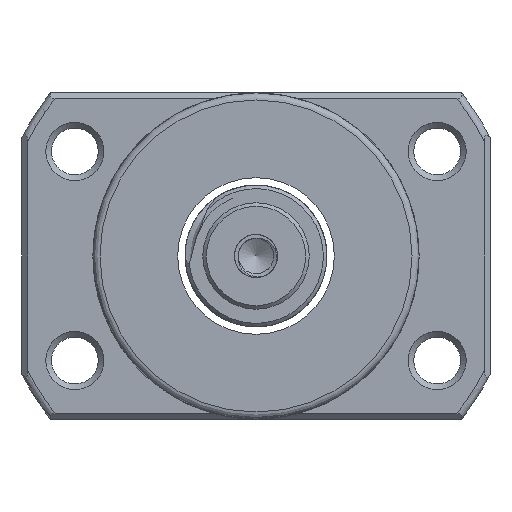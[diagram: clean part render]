
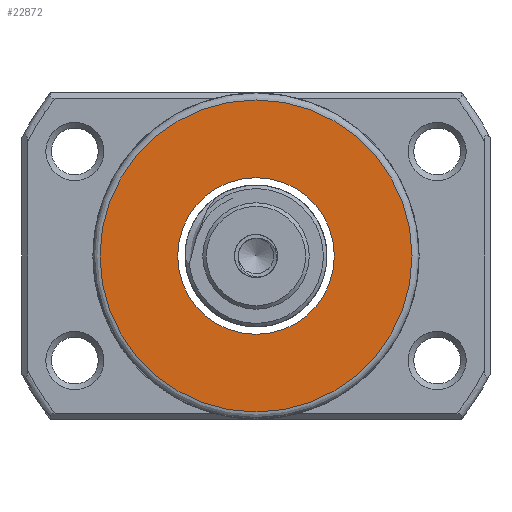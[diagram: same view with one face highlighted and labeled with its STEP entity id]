
A CAD part, left-side view. The second image highlights one B-rep face of the part: STEP entity #22872.
In plain terms, the highlighted planar face has unit normal (-1, 0, 0).
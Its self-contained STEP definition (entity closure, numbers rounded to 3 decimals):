
#1487 = CARTESIAN_POINT ( 'NONE',  ( -53.324, 0., 11.05 ) ) ;
#2553 = AXIS2_PLACEMENT_3D ( 'NONE', #4843, #24749, #12999 ) ;
#3683 = VERTEX_POINT ( 'NONE', #1487 ) ;
#4001 = EDGE_CURVE ( 'NONE', #12502, #12502, #16538, .T. ) ;
#4843 = CARTESIAN_POINT ( 'NONE',  ( -53.324, 0., 0. ) ) ;
#4922 = ORIENTED_EDGE ( 'NONE', *, *, #18815, .F. ) ;
#5113 = CARTESIAN_POINT ( 'NONE',  ( -53.324, 11.05, 0. ) ) ;
#6113 = EDGE_LOOP ( 'NONE', ( #17033 ) ) ;
#7375 = DIRECTION ( 'NONE',  ( -1., 0., 0. ) ) ;
#8994 = FACE_BOUND ( 'NONE', #24417, .T. ) ;
#10560 = CARTESIAN_POINT ( 'NONE',  ( -53.324, 0., 22. ) ) ;
#12502 = VERTEX_POINT ( 'NONE', #10560 ) ;
#12727 = AXIS2_PLACEMENT_3D ( 'NONE', #5113, #22824, #18934 ) ;
#12999 = DIRECTION ( 'NONE',  ( 0., 0., 1. ) ) ;
#13199 = DIRECTION ( 'NONE',  ( 0., 0., 1. ) ) ;
#15068 = PLANE ( 'NONE',  #12727 ) ;
#16534 = CIRCLE ( 'NONE', #2553, 11.05 ) ;
#16538 = CIRCLE ( 'NONE', #19012, 22. ) ;
#17033 = ORIENTED_EDGE ( 'NONE', *, *, #4001, .T. ) ;
#17438 = CARTESIAN_POINT ( 'NONE',  ( -53.324, 0., 0. ) ) ;
#18815 = EDGE_CURVE ( 'NONE', #3683, #3683, #16534, .T. ) ;
#18934 = DIRECTION ( 'NONE',  ( 0., 0., 1. ) ) ;
#19012 = AXIS2_PLACEMENT_3D ( 'NONE', #17438, #7375, #13199 ) ;
#22824 = DIRECTION ( 'NONE',  ( -1., 0., 0. ) ) ;
#22872 = ADVANCED_FACE ( 'NONE', ( #23200, #8994 ), #15068, .T. ) ;
#23200 = FACE_OUTER_BOUND ( 'NONE', #6113, .T. ) ;
#24417 = EDGE_LOOP ( 'NONE', ( #4922 ) ) ;
#24749 = DIRECTION ( 'NONE',  ( -1., 0., 0. ) ) ;
